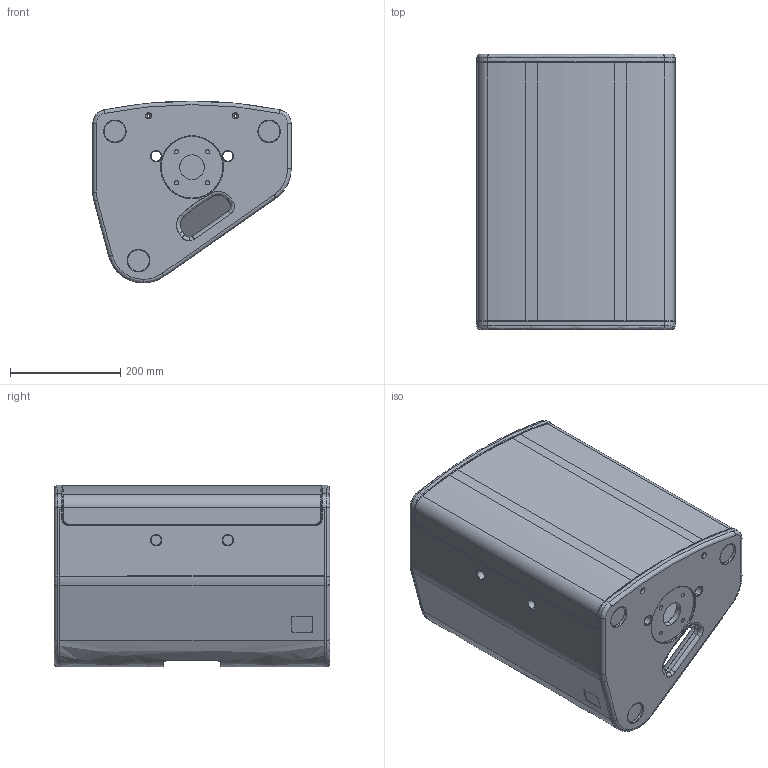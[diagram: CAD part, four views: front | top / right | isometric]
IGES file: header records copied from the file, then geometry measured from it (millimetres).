
Start section: SolidWorks IGES file using analytic representation for surfaces
Global section: file name: C:\Users\Michl\Documents\Michl\SolidWorks\X-Serie\3D-Dateien_Homepage\SEEBURG_X6.IGS; native system: SolidWorks 2009; preprocessor: SolidWorks 2009; author: Michl; date: 180920.103933; units: millimetre
Bounding box: 360 x 500 x 330 mm (x, y, z)
Surface area: 1653655.6 mm2 (no closed solid volume)
Topology: 0 solids, 0 shells, 508 faces, 7034 edges, 7032 vertices
Faces by surface type: revolution 288, bspline 220
